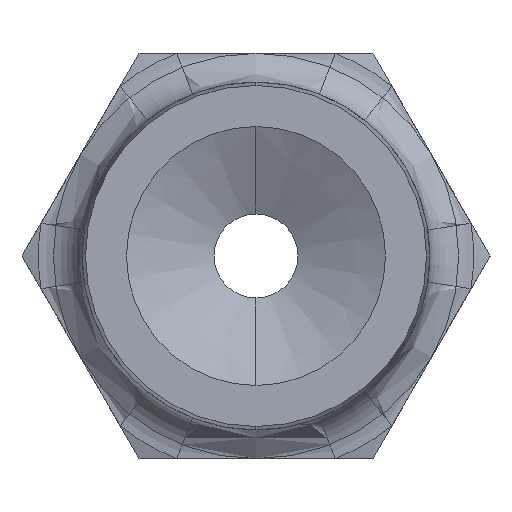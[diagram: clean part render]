
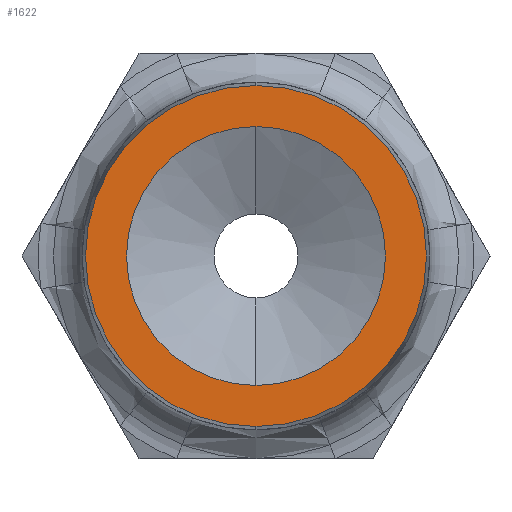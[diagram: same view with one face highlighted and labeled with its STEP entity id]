
A CAD part, left-side view. The second image highlights one B-rep face of the part: STEP entity #1622.
In plain terms, the highlighted planar face has unit normal (-1, 0, 0).
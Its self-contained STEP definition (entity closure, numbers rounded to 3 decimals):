
#1 = DIRECTION ( 'NONE',  ( 0., 0., 1. ) ) ;
#2 = DIRECTION ( 'NONE',  ( -1., 0., 0. ) ) ;
#3 = AXIS2_PLACEMENT_3D ( 'NONE', #4, #2, #1 ) ;
#4 = CARTESIAN_POINT ( 'NONE',  ( -18., 0., 0. ) ) ;
#5 = PLANE ( 'NONE',  #3 ) ;
#6 = FACE_BOUND ( 'NONE', #1627, .T. ) ;
#7 = FACE_OUTER_BOUND ( 'NONE', #1623, .T. ) ;
#65 = DIRECTION ( 'NONE',  ( 0., 0., 1. ) ) ;
#66 = DIRECTION ( 'NONE',  ( -1., 0., 0. ) ) ;
#67 = CARTESIAN_POINT ( 'NONE',  ( -18., 0., 0. ) ) ;
#68 = AXIS2_PLACEMENT_3D ( 'NONE', #67, #66, #65 ) ;
#69 = CIRCLE ( 'NONE', #68, 3.55 ) ;
#70 = DIRECTION ( 'NONE',  ( 0., 0., 1. ) ) ;
#71 = DIRECTION ( 'NONE',  ( -1., 0., 0. ) ) ;
#72 = CARTESIAN_POINT ( 'NONE',  ( -18., 0., 0. ) ) ;
#73 = AXIS2_PLACEMENT_3D ( 'NONE', #72, #71, #70 ) ;
#74 = CIRCLE ( 'NONE', #73, 4.674 ) ;
#1243 = VERTEX_POINT ( 'NONE', #2315 ) ;
#1314 = VERTEX_POINT ( 'NONE', #2169 ) ;
#1316 = EDGE_CURVE ( 'NONE', #1314, #1317, #2168, .T. ) ;
#1317 = VERTEX_POINT ( 'NONE', #2163 ) ;
#1427 = EDGE_CURVE ( 'NONE', #1428, #1243, #2330, .T. ) ;
#1428 = VERTEX_POINT ( 'NONE', #2320 ) ;
#1622 = ADVANCED_FACE ( 'NONE', ( #7, #6 ), #5, .T. ) ;
#1623 = EDGE_LOOP ( 'NONE', ( #1624, #1626 ) ) ;
#1624 = ORIENTED_EDGE ( 'NONE', *, *, #1625, .T. ) ;
#1625 = EDGE_CURVE ( 'NONE', #1243, #1428, #74, .T. ) ;
#1626 = ORIENTED_EDGE ( 'NONE', *, *, #1427, .T. ) ;
#1627 = EDGE_LOOP ( 'NONE', ( #1628, #1630 ) ) ;
#1628 = ORIENTED_EDGE ( 'NONE', *, *, #1629, .F. ) ;
#1629 = EDGE_CURVE ( 'NONE', #1317, #1314, #69, .T. ) ;
#1630 = ORIENTED_EDGE ( 'NONE', *, *, #1316, .F. ) ;
#2163 = CARTESIAN_POINT ( 'NONE',  ( -18., 0., 3.55 ) ) ;
#2164 = DIRECTION ( 'NONE',  ( 0., 0., 1. ) ) ;
#2165 = DIRECTION ( 'NONE',  ( -1., 0., 0. ) ) ;
#2166 = CARTESIAN_POINT ( 'NONE',  ( -18., 0., 0. ) ) ;
#2167 = AXIS2_PLACEMENT_3D ( 'NONE', #2166, #2165, #2164 ) ;
#2168 = CIRCLE ( 'NONE', #2167, 3.55 ) ;
#2169 = CARTESIAN_POINT ( 'NONE',  ( -18., 0., -3.55 ) ) ;
#2315 = CARTESIAN_POINT ( 'NONE',  ( -18., 0., 4.674 ) ) ;
#2320 = CARTESIAN_POINT ( 'NONE',  ( -18., 0., -4.674 ) ) ;
#2321 = DIRECTION ( 'NONE',  ( 0., 0., 1. ) ) ;
#2322 = DIRECTION ( 'NONE',  ( -1., 0., 0. ) ) ;
#2323 = CARTESIAN_POINT ( 'NONE',  ( -18., 0., 0. ) ) ;
#2324 = AXIS2_PLACEMENT_3D ( 'NONE', #2323, #2322, #2321 ) ;
#2330 = CIRCLE ( 'NONE', #2324, 4.674 ) ;
